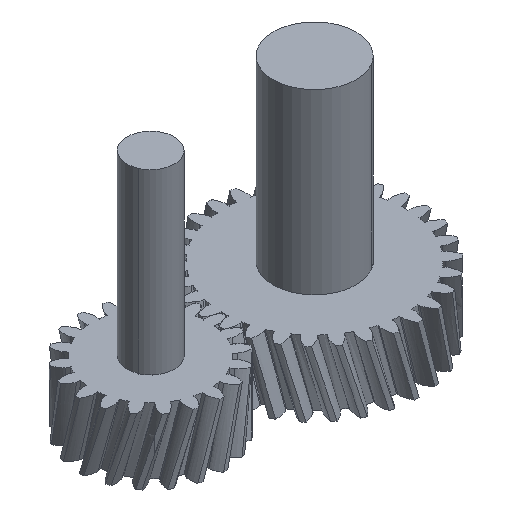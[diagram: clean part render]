
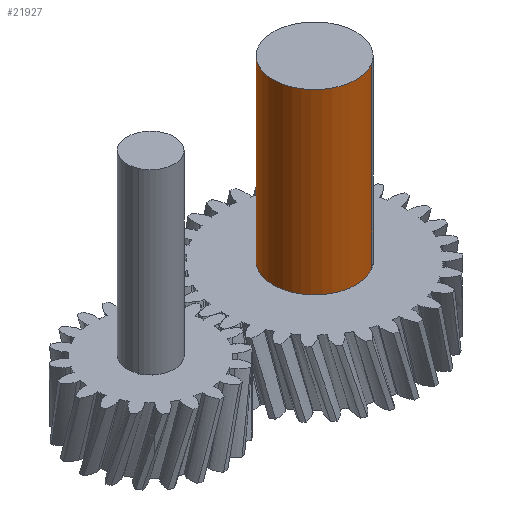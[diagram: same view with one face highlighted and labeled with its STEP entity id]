
A CAD part, isometric view. The second image highlights one B-rep face of the part: STEP entity #21927.
In plain terms, the highlighted cylindrical face has radius 63.246 mm (diameter 126.491 mm), a partial arc.
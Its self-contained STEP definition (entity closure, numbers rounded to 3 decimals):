
#21888=CARTESIAN_POINT('Axis2P3D Location',(-228.386,101.684,185.5)) ;
#21893=CARTESIAN_POINT('Line Origine',(-219.675,39.041,185.5)) ;
#21897=CARTESIAN_POINT('Vertex',(-219.675,39.041,0.)) ;
#21899=CARTESIAN_POINT('Vertex',(-219.675,39.041,371.)) ;
#21902=CARTESIAN_POINT('Axis2P3D Location',(-228.386,101.684,0.)) ;
#21906=CARTESIAN_POINT('Vertex',(-237.098,164.327,0.)) ;
#21909=CARTESIAN_POINT('Line Origine',(-237.098,164.327,185.5)) ;
#21913=CARTESIAN_POINT('Vertex',(-237.098,164.327,371.)) ;
#21916=CARTESIAN_POINT('Axis2P3D Location',(-228.386,101.684,371.)) ;
#21889=DIRECTION('Axis2P3D Direction',(-0.,0.,1.)) ;
#21890=DIRECTION('Axis2P3D XDirection',(0.138,-0.99,0.)) ;
#21894=DIRECTION('Vector Direction',(0.,0.,1.)) ;
#21903=DIRECTION('Axis2P3D Direction',(-0.,0.,1.)) ;
#21910=DIRECTION('Vector Direction',(0.,0.,1.)) ;
#21917=DIRECTION('Axis2P3D Direction',(-0.,0.,1.)) ;
#21891=AXIS2_PLACEMENT_3D('Cylinder Axis2P3D',#21888,#21889,#21890) ;
#21904=AXIS2_PLACEMENT_3D('Circle Axis2P3D',#21902,#21903,$) ;
#21918=AXIS2_PLACEMENT_3D('Circle Axis2P3D',#21916,#21917,$) ;
#21922=ORIENTED_EDGE('',*,*,#21901,.F.) ;
#21923=ORIENTED_EDGE('',*,*,#21908,.T.) ;
#21924=ORIENTED_EDGE('',*,*,#21915,.T.) ;
#21925=ORIENTED_EDGE('',*,*,#21920,.F.) ;
#21895=VECTOR('Line Direction',#21894,1.) ;
#21911=VECTOR('Line Direction',#21910,1.) ;
#21927=ADVANCED_FACE('PartBody',(#21926),#21892,.T.) ;
#21905=CIRCLE('generated circle',#21904,63.246) ;
#21919=CIRCLE('generated circle',#21918,63.246) ;
#21892=CYLINDRICAL_SURFACE('generated cylinder',#21891,63.246) ;
#21901=EDGE_CURVE('',#21898,#21900,#21896,.T.) ;
#21908=EDGE_CURVE('',#21898,#21907,#21905,.T.) ;
#21915=EDGE_CURVE('',#21907,#21914,#21912,.T.) ;
#21920=EDGE_CURVE('',#21900,#21914,#21919,.T.) ;
#21921=EDGE_LOOP('',(#21922,#21923,#21924,#21925)) ;
#21926=FACE_OUTER_BOUND('',#21921,.T.) ;
#21896=LINE('Line',#21893,#21895) ;
#21912=LINE('Line',#21909,#21911) ;
#21898=VERTEX_POINT('',#21897) ;
#21900=VERTEX_POINT('',#21899) ;
#21907=VERTEX_POINT('',#21906) ;
#21914=VERTEX_POINT('',#21913) ;
